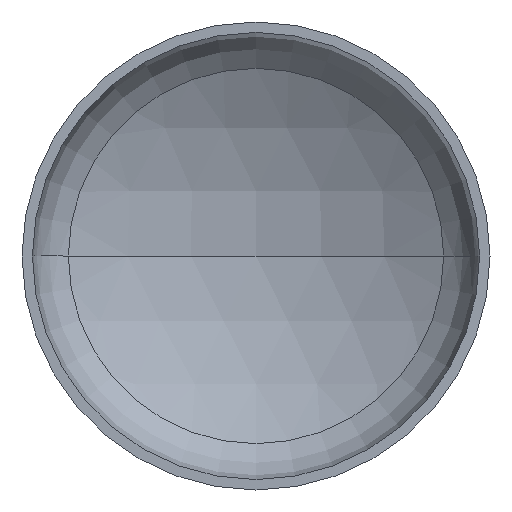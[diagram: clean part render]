
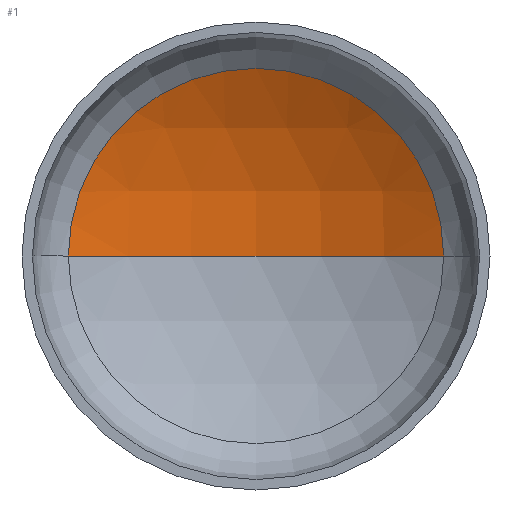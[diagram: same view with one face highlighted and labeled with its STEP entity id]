
A CAD part, front view. The second image highlights one B-rep face of the part: STEP entity #1.
In plain terms, the highlighted spherical face has radius 1040 mm.
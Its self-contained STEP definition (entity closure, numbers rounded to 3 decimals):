
#1 = ADVANCED_FACE ( 'NONE', ( #410 ), #141, .F. ) ;
#6 = VERTEX_POINT ( 'NONE', #287 ) ;
#8 = ORIENTED_EDGE ( 'NONE', *, *, #225, .F. ) ;
#11 = VERTEX_POINT ( 'NONE', #250 ) ;
#39 = AXIS2_PLACEMENT_3D ( 'NONE', #179, #124, #126 ) ;
#43 = AXIS2_PLACEMENT_3D ( 'NONE', #87, #59, #49 ) ;
#49 = DIRECTION ( 'NONE',  ( -1., 0., 0. ) ) ;
#50 = AXIS2_PLACEMENT_3D ( 'NONE', #271, #268, #241 ) ;
#59 = DIRECTION ( 'NONE',  ( 0., 0., -1. ) ) ;
#73 = AXIS2_PLACEMENT_3D ( 'NONE', #252, #278, #275 ) ;
#87 = CARTESIAN_POINT ( 'NONE',  ( 0., -636.883, 0. ) ) ;
#124 = DIRECTION ( 'NONE',  ( 0., 0., 1. ) ) ;
#126 = DIRECTION ( 'NONE',  ( 1., 0., 0. ) ) ;
#129 = ORIENTED_EDGE ( 'NONE', *, *, #207, .T. ) ;
#130 = ORIENTED_EDGE ( 'NONE', *, *, #184, .T. ) ;
#141 = SPHERICAL_SURFACE ( 'NONE', #73, 1040. ) ;
#179 = CARTESIAN_POINT ( 'NONE',  ( 0., -636.883, 0. ) ) ;
#184 = EDGE_CURVE ( 'NONE', #11, #189, #266, .T. ) ;
#189 = VERTEX_POINT ( 'NONE', #253 ) ;
#194 = CIRCLE ( 'NONE', #39, 1040. ) ;
#201 = CIRCLE ( 'NONE', #43, 1040. ) ;
#207 = EDGE_CURVE ( 'NONE', #6, #11, #201, .T. ) ;
#225 = EDGE_CURVE ( 'NONE', #6, #189, #194, .T. ) ;
#241 = DIRECTION ( 'NONE',  ( 1., 0., 0. ) ) ;
#250 = CARTESIAN_POINT ( 'NONE',  ( 521.238, 263.067, 0. ) ) ;
#252 = CARTESIAN_POINT ( 'NONE',  ( 0., -636.883, 0. ) ) ;
#253 = CARTESIAN_POINT ( 'NONE',  ( -521.238, 263.067, 0. ) ) ;
#266 = CIRCLE ( 'NONE', #50, 521.238 ) ;
#268 = DIRECTION ( 'NONE',  ( 0., -1., 0. ) ) ;
#271 = CARTESIAN_POINT ( 'NONE',  ( 0., 263.067, 0. ) ) ;
#275 = DIRECTION ( 'NONE',  ( -1., 0., 0. ) ) ;
#278 = DIRECTION ( 'NONE',  ( 0., 0., -1. ) ) ;
#287 = CARTESIAN_POINT ( 'NONE',  ( 0., 403.117, 0. ) ) ;
#318 = EDGE_LOOP ( 'NONE', ( #8, #129, #130 ) ) ;
#410 = FACE_OUTER_BOUND ( 'NONE', #318, .T. ) ;
